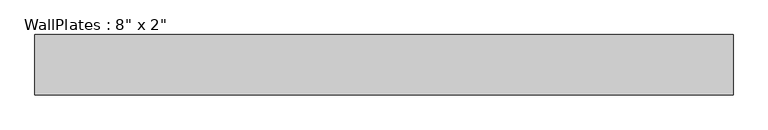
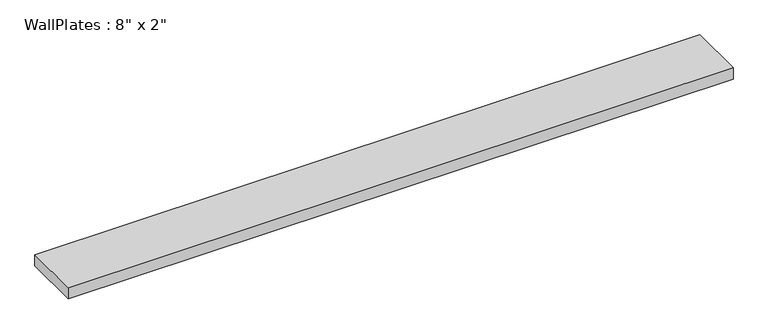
"""IFC4 building model written with IfcOpenShell, lengths in millimetres: beam geometry."""

from ifc_helpers import new_model, si_unit, frame, origin, place, context, project, spatial, polyline, outline, extrude, source, transform, mapped, element, save


def beam_a83041ab(model_context):
    return source(origin(), model_context, "Body", "SweptSolid", [
        extrude(outline(polyline([(-1066.8, -92.075), (-1066.8, 92.075), (1066.8, 92.075), (1066.8, -92.075), (-1066.8, -92.075)])), frame((0.0, 0.0, -19.05), z_axis=(0.0, 0.0, 1.0), x_axis=(1.0, 0.0, 0.0)), (0.0, 0.0, 1.0), 38.1),
    ])


if __name__ == "__main__":
    model = new_model("IFC4")
    model_context = context("Model", 3, world=origin())
    ifc_project = project(units=[si_unit("LENGTHUNIT", "METRE", prefix="MILLI")], contexts=[model_context])
    site = spatial("IfcSite", under=ifc_project)
    building = spatial("IfcBuilding", under=site)
    placement = place(None, origin())
    beam_shape = beam_a83041ab(model_context)
    element("IfcBeam", 1, ObjectType="WallPlates : 8\" x 2\"", at=placement, inside=building, context=model_context, shape_type="MappedRepresentation", body=[
        mapped(beam_shape, transform((0.0, 0.0, 0.0), x_axis=(1.0, 0.0, 0.0), y_axis=(0.0, 1.0, 0.0), z_axis=(0.0, 0.0, 1.0))),
    ])
    save(model, "model.ifc")
